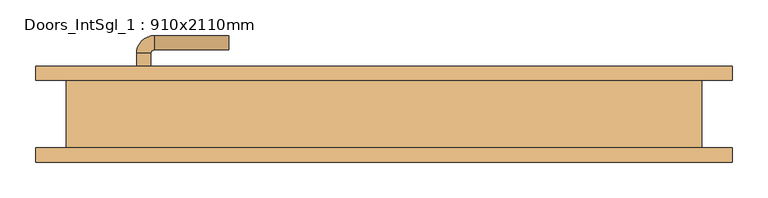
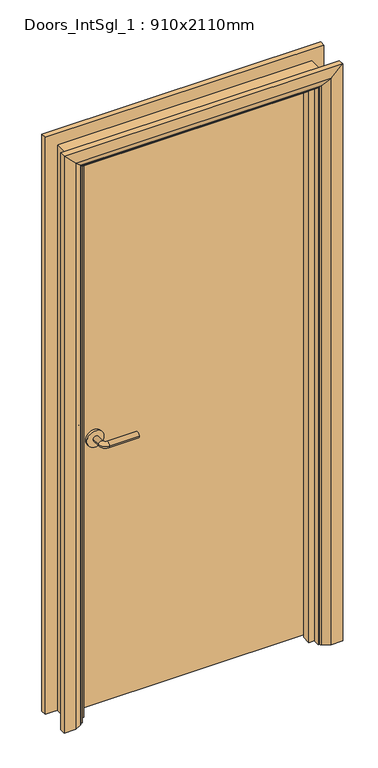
"""IFC4 building model written with IfcOpenShell, lengths in millimetres: door geometry, Doors_IntSgl_1 : 910x2110mm."""

from ifc_helpers import new_model, si_unit, point, frame, frame_2d, origin, place, context, project, spatial, polyline, circle_curve, ellipse_curve, trimmed, segment, composite_curve, outline, extrude, faceted_brep, source, transform, mapped, element, save
from ifc_brep_helpers import plane_surface, cylinder_surface, revolved_surface, advanced_brep


def doors_intsgl_1_910x2110mm_004a08d5(model_context):
    return source(origin(), model_context, "Body", "SolidModel", [
        advanced_brep(
        [(-348.0, 1.5, 1000.0), (-328.0, 1.5, 1000.0), (-328.0, -28.5, 1000.0), (-348.0, -28.5, 1000.0), (-323.0, -33.5, 1000.0), (-323.0, -53.5, 1000.0), (-218.0, -53.5, 1000.0), (-218.0, -33.5, 1000.0)],
        [
            (0, 1, circle_curve(frame((-338.0, 1.5, 1000.0), z_axis=(0.0, 1.0, 0.0), x_axis=(1.0, 0.0, 0.0)), 10.0)),
            (1, 0, circle_curve(frame((-338.0, 1.5, 1000.0), z_axis=(0.0, 1.0, 0.0), x_axis=(1.0, 0.0, 0.0)), 10.0)),
            (1, 2),
            (2, 3, circle_curve(frame((-338.0, -28.5, 1000.0), z_axis=(0.0, 1.0, 0.0), x_axis=(1.0, 0.0, 0.0)), 10.0)),
            (3, 0),
            (3, 2, circle_curve(frame((-338.0, -28.5, 1000.0), z_axis=(0.0, 1.0, 0.0), x_axis=(1.0, 0.0, 0.0)), 10.0)),
            (4, 5, circle_curve(frame((-323.0, -43.5, 1000.0), z_axis=(-1.0, 0.0, 0.0), x_axis=(0.0, 1.0, 0.0)), 10.0)),
            (5, 3, circle_curve(frame((-323.0, -28.5, 1000.0), z_axis=(0.0, 0.0, -1.0), x_axis=(-1.0, 0.0, 0.0)), 25.0)),
            (2, 4, circle_curve(frame((-323.0, -28.5, 1000.0), z_axis=(0.0, 0.0, 1.0), x_axis=(-1.0, 0.0, 0.0)), 5.0)),
            (5, 4, circle_curve(frame((-323.0, -43.5, 1000.0), z_axis=(-1.0, 0.0, 0.0), x_axis=(0.0, 1.0, 0.0)), 10.0)),
            (6, 7, circle_curve(frame((-218.0, -43.5, 1000.0), z_axis=(1.0, 0.0, 0.0), x_axis=(0.0, 1.0, 0.0)), 10.0)),
            (7, 6, circle_curve(frame((-218.0, -43.5, 1000.0), z_axis=(1.0, 0.0, 0.0), x_axis=(0.0, 1.0, 0.0)), 10.0)),
            (4, 7),
            (6, 5),
        ],
        [
            plane_surface(frame((-338.0, 1.5, 1000.0), z_axis=(0.0, 1.0, 0.0), x_axis=(0.0, 0.0, 1.0))),
            cylinder_surface(frame((-338.0, 1.5, 1000.0), z_axis=(0.0, 1.0, 0.0), x_axis=(1.0, 0.0, 0.0)), 10.0),
            revolved_surface(trimmed(ellipse_curve(frame((-338.0, -28.5, 1000.0), z_axis=(0.0, -1.0, 0.0), x_axis=(1.0, 0.0, 0.0)), 10.0, 10.0), [point((-348.0, -28.5, 1000.0))], [point((-328.0, -28.5, 1000.0))], True, "CARTESIAN"), (-323.0, -28.5, 1000.0), (0.0, 0.0, -1.0)),
            revolved_surface(trimmed(ellipse_curve(frame((-338.0, -28.5, 1000.0), z_axis=(0.0, -1.0, 0.0), x_axis=(1.0, 0.0, 0.0)), 10.0, 10.0), [point((-328.0, -28.5, 1000.0))], [point((-348.0, -28.5, 1000.0))], True, "CARTESIAN"), (-323.0, -28.5, 1000.0), (0.0, 0.0, -1.0)),
            plane_surface(frame((-218.0, -43.5, 1000.0), z_axis=(1.0, 0.0, 0.0), x_axis=(0.0, 0.0, 1.0))),
            cylinder_surface(frame((-323.0, -43.5, 1000.0), z_axis=(-1.0, 0.0, 0.0), x_axis=(0.0, 1.0, 0.0)), 10.0),
        ],
        [
            (0, [[1, 2]]),
            (1, [[3, 4, 5, -2]]),
            (1, [[-5, 6, -3, -1]]),
            (2, [[7, 8, -4, 9]]),
            (3, [[10, -9, -6, -8]]),
            (4, [[11, 12]]),
            (5, [[13, -11, 14, -7]]),
            (5, [[-14, -12, -13, -10]]),
        ],
    ),
        extrude(outline(composite_curve([segment(trimmed(circle_curve(frame_2d((1000.0, -340.5)), 30.0), [point((1000.0, -370.5))], [point((1000.0, -310.5))], False, "CARTESIAN"), True, "CONTINUOUS"), segment(trimmed(circle_curve(frame_2d((1000.0, -340.5)), 30.0), [point((1000.0, -310.5))], [point((1000.0, -370.5))], False, "CARTESIAN"), True, "CONTINUOUS")], self_intersect=False)), frame((0.0, 1.5, 0.0), z_axis=(0.0, 1.0, 0.0), x_axis=(0.0, 0.0, 1.0)), (0.0, 0.0, 1.0), 8.0),
        advanced_brep(
        [(-348.0, 55.5, 1000.0), (-328.0, 55.5, 1000.0), (-348.0, 85.5, 1000.0), (-328.0, 85.5, 1000.0), (-323.0, 90.5, 1000.0), (-323.0, 110.5, 1000.0), (-218.0, 110.5, 1000.0), (-218.0, 90.5, 1000.0)],
        [
            (0, 1, circle_curve(frame((-338.0, 55.5, 1000.0), z_axis=(0.0, -1.0, 0.0), x_axis=(1.0, 0.0, 0.0)), 10.0)),
            (1, 0, circle_curve(frame((-338.0, 55.5, 1000.0), z_axis=(0.0, -1.0, 0.0), x_axis=(1.0, 0.0, 0.0)), 10.0)),
            (0, 2),
            (2, 3, circle_curve(frame((-338.0, 85.5, 1000.0), z_axis=(0.0, -1.0, 0.0), x_axis=(1.0, 0.0, 0.0)), 10.0)),
            (3, 1),
            (3, 2, circle_curve(frame((-338.0, 85.5, 1000.0), z_axis=(0.0, -1.0, 0.0), x_axis=(1.0, 0.0, 0.0)), 10.0)),
            (4, 3, circle_curve(frame((-323.0, 85.5, 1000.0), z_axis=(0.0, 0.0, 1.0), x_axis=(-1.0, 0.0, 0.0)), 5.0)),
            (2, 5, circle_curve(frame((-323.0, 85.5, 1000.0), z_axis=(0.0, 0.0, -1.0), x_axis=(-1.0, 0.0, 0.0)), 25.0)),
            (5, 4, circle_curve(frame((-323.0, 100.5, 1000.0), z_axis=(-1.0, 0.0, 0.0), x_axis=(0.0, -1.0, 0.0)), 10.0)),
            (4, 5, circle_curve(frame((-323.0, 100.5, 1000.0), z_axis=(-1.0, 0.0, 0.0), x_axis=(0.0, -1.0, 0.0)), 10.0)),
            (6, 7, circle_curve(frame((-218.0, 100.5, 1000.0), z_axis=(1.0, 0.0, 0.0), x_axis=(0.0, -1.0, 0.0)), 10.0)),
            (7, 6, circle_curve(frame((-218.0, 100.5, 1000.0), z_axis=(1.0, 0.0, 0.0), x_axis=(0.0, -1.0, 0.0)), 10.0)),
            (5, 6),
            (7, 4),
        ],
        [
            plane_surface(frame((-338.0, 55.5, 1000.0), z_axis=(0.0, -1.0, 0.0), x_axis=(0.0, 0.0, 1.0))),
            cylinder_surface(frame((-338.0, 55.5, 1000.0), z_axis=(0.0, -1.0, 0.0), x_axis=(1.0, 0.0, 0.0)), 10.0),
            revolved_surface(trimmed(ellipse_curve(frame((-338.0, 85.5, 1000.0), z_axis=(0.0, -1.0, 0.0), x_axis=(1.0, 0.0, 0.0)), 10.0, 10.0), [point((-348.0, 85.5, 1000.0))], [point((-328.0, 85.5, 1000.0))], True, "CARTESIAN"), (-323.0, 85.5, 1000.0), (0.0, 0.0, -1.0)),
            revolved_surface(trimmed(ellipse_curve(frame((-338.0, 85.5, 1000.0), z_axis=(0.0, -1.0, 0.0), x_axis=(1.0, 0.0, 0.0)), 10.0, 10.0), [point((-328.0, 85.5, 1000.0))], [point((-348.0, 85.5, 1000.0))], True, "CARTESIAN"), (-323.0, 85.5, 1000.0), (0.0, 0.0, -1.0)),
            plane_surface(frame((-218.0, 100.5, 1000.0), z_axis=(1.0, 0.0, 0.0), x_axis=(0.0, 0.0, 1.0))),
            cylinder_surface(frame((-323.0, 100.5, 1000.0), z_axis=(-1.0, 0.0, 0.0), x_axis=(0.0, -1.0, 0.0)), 10.0),
        ],
        [
            (0, [[1, 2]]),
            (1, [[-1, 3, 4, 5]]),
            (1, [[-2, -5, 6, -3]]),
            (2, [[7, -4, 8, 9]]),
            (3, [[-8, -6, -7, 10]]),
            (4, [[11, 12]]),
            (5, [[-9, 13, -12, 14]]),
            (5, [[-10, -14, -11, -13]]),
        ],
    ),
        extrude(outline(composite_curve([segment(trimmed(circle_curve(frame_2d((1000.0, -340.5)), 30.0), [point((1000.0, -370.5))], [point((1000.0, -310.5))], False, "CARTESIAN"), True, "CONTINUOUS"), segment(trimmed(circle_curve(frame_2d((1000.0, -340.5)), 30.0), [point((1000.0, -310.5))], [point((1000.0, -370.5))], False, "CARTESIAN"), True, "CONTINUOUS")], self_intersect=False)), frame((0.0, 47.5, 0.0), z_axis=(0.0, 1.0, 0.0), x_axis=(0.0, 0.0, 1.0)), (0.0, 0.0, 1.0), 8.0),
        extrude(outline(polyline([(413.0, 9.5), (-413.0, 9.5), (-413.0, 47.5), (413.0, 47.5), (413.0, 9.5)])), frame((0.0, 0.0, 8.0), z_axis=(0.0, 0.0, 1.0), x_axis=(1.0, 0.0, 0.0)), (0.0, 0.0, 1.0), 2060.0),
        faceted_brep([(-415.0, 47.5, 0.0), (-415.0, -47.5, 0.0), (-447.0, -47.5, 0.0), (-447.0, 47.5, 0.0), (-415.0, 47.5, 2070.0), (-415.0, -47.5, 2070.0), (-447.0, -47.5, 2102.0), (-447.0, 47.5, 2102.0), (415.0, 47.5, 0.0), (447.0, 47.5, 0.0), (447.0, -47.5, 0.0), (415.0, -47.5, 0.0), (415.0, 47.5, 2070.0), (447.0, 47.5, 2102.0), (447.0, -47.5, 2102.0), (415.0, -47.5, 2070.0)], [[[0, 1, 2, 3]], [[1, 0, 4, 5]], [[2, 1, 5, 6]], [[3, 2, 6, 7]], [[0, 3, 7, 4]], [[8, 9, 10, 11]], [[12, 13, 9, 8]], [[13, 14, 10, 9]], [[14, 15, 11, 10]], [[15, 12, 8, 11]], [[5, 4, 12, 15]], [[6, 5, 15, 14]], [[7, 6, 14, 13]], [[4, 7, 13, 12]]]),
        advanced_brep(
        [(-490.0, -67.5, 0.0), (-490.0, -47.5, 0.0), (-420.0, -47.5, 0.0), (-424.0, -53.5, 0.0), (-450.0, -67.5, 0.0), (-490.0, -67.5, 2145.0), (-490.0, -47.5, 2145.0), (-420.0, -47.5, 2075.0), (-424.0, -53.5, 2079.0), (-450.0, -67.5, 2105.0), (490.0, -67.5, 0.0), (450.0, -67.5, 0.0), (424.0, -53.5, 0.0), (420.0, -47.5, 0.0), (490.0, -47.5, 0.0), (490.0, -67.5, 2145.0), (450.0, -67.5, 2105.0), (424.0, -53.5, 2079.0), (420.0, -47.5, 2075.0), (490.0, -47.5, 2145.0)],
        [
            (0, 1),
            (1, 2),
            (2, 3, circle_curve(frame((-428.0, -46.5, 0.0), z_axis=(0.0, 0.0, -1.0), x_axis=(-1.0, 0.0, 0.0)), 8.0622577)),
            (3, 4),
            (4, 0),
            (0, 5),
            (5, 6),
            (6, 1),
            (6, 7),
            (7, 2),
            (7, 8, ellipse_curve(frame((-428.0, -46.5, 2083.0), z_axis=(-0.7071067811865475, 0.0, -0.7071067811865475), x_axis=(0.7071067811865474, 0.0, -0.7071067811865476)), 11.4017543, 8.0622577)),
            (8, 3),
            (8, 9),
            (9, 4),
            (9, 5),
            (10, 11),
            (11, 12),
            (12, 13, circle_curve(frame((428.0, -46.5, 0.0), z_axis=(0.0, 0.0, -1.0), x_axis=(1.0, 0.0, 0.0)), 8.0622577)),
            (13, 14),
            (14, 10),
            (15, 16),
            (16, 11),
            (10, 15),
            (16, 17),
            (17, 12),
            (17, 18, ellipse_curve(frame((428.0, -46.5, 2083.0), z_axis=(0.7071067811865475, 0.0, -0.7071067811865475), x_axis=(0.7071067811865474, 0.0, 0.7071067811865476)), 11.4017543, 8.0622577)),
            (18, 13),
            (18, 19),
            (19, 14),
            (19, 15),
            (5, 15),
            (19, 6),
            (18, 7),
            (17, 8),
            (16, 9),
        ],
        [
            plane_surface(frame((-420.0, -120.3010989, 0.0), z_axis=(0.0, 0.0, -1.0), x_axis=(1.0, 0.0, 0.0))),
            plane_surface(frame((-490.0, -67.5, 0.0), z_axis=(-1.0, 0.0, 0.0), x_axis=(0.0, 0.0, 1.0))),
            plane_surface(frame((-490.0, -47.5, 0.0), z_axis=(0.0, 1.0, 0.0), x_axis=(0.0, 0.0, 1.0))),
            cylinder_surface(frame((-428.0, -46.5, 0.0), z_axis=(0.0, 0.0, -1.0), x_axis=(-1.0, 0.0, 0.0)), 8.0622577),
            plane_surface(frame((-424.0, -53.5, 0.0), z_axis=(0.4740998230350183, -0.8804710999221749, 0.0), x_axis=(0.0, 0.0, 1.0))),
            plane_surface(frame((-450.0, -67.5, 0.0), z_axis=(0.0, -1.0, 0.0), x_axis=(0.0, 0.0, 1.0))),
            plane_surface(frame((420.0, -120.3010989, 0.0), z_axis=(0.0, 0.0, -1.0), x_axis=(-1.0, 0.0, 0.0))),
            plane_surface(frame((450.0, -67.5, 2105.0), z_axis=(0.0, -1.0, 0.0), x_axis=(0.0, 0.0, -1.0))),
            plane_surface(frame((424.0, -53.5, 2079.0), z_axis=(-0.4740998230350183, -0.8804710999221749, 0.0), x_axis=(0.0, 0.0, -1.0))),
            cylinder_surface(frame((428.0, -46.5, 2075.0), z_axis=(0.0, 0.0, 1.0), x_axis=(1.0, 0.0, 0.0)), 8.0622577),
            plane_surface(frame((490.0, -47.5, 2145.0), z_axis=(0.0, 1.0, 0.0), x_axis=(0.0, 0.0, -1.0))),
            plane_surface(frame((490.0, -67.5, 2145.0), z_axis=(1.0, 0.0, 0.0), x_axis=(0.0, 0.0, -1.0))),
            plane_surface(frame((-490.0, -67.5, 2145.0), z_axis=(0.0, 0.0, 1.0), x_axis=(1.0, 0.0, 0.0))),
            plane_surface(frame((-490.0, -47.5, 2145.0), z_axis=(0.0, 1.0, 0.0), x_axis=(1.0, 0.0, 0.0))),
            cylinder_surface(frame((-420.0, -46.5, 2083.0), z_axis=(-1.0, 0.0, 0.0), x_axis=(0.0, 0.0, 1.0)), 8.0622577),
            plane_surface(frame((-424.0, -53.5, 2079.0), z_axis=(0.0, -0.8804710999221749, -0.4740998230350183), x_axis=(1.0, 0.0, 0.0))),
            plane_surface(frame((-450.0, -67.5, 2105.0), z_axis=(0.0, -1.0, 0.0), x_axis=(1.0, 0.0, 0.0))),
        ],
        [
            (0, [[1, 2, 3, 4, 5]]),
            (1, [[-1, 6, 7, 8]]),
            (2, [[-2, -8, 9, 10]]),
            (3, [[-3, -10, 11, 12]]),
            (4, [[-4, -12, 13, 14]]),
            (5, [[-5, -14, 15, -6]]),
            (6, [[16, 17, 18, 19, 20]]),
            (7, [[21, 22, -16, 23]]),
            (8, [[24, 25, -17, -22]]),
            (9, [[26, 27, -18, -25]]),
            (10, [[28, 29, -19, -27]]),
            (11, [[30, -23, -20, -29]]),
            (12, [[-7, 31, -30, 32]]),
            (13, [[-9, -32, -28, 33]]),
            (14, [[-11, -33, -26, 34]]),
            (15, [[-13, -34, -24, 35]]),
            (16, [[-15, -35, -21, -31]]),
        ],
    ),
        extrude(outline(polyline([(0.0, -415.0), (0.0, -396.0), (2051.0, -396.0), (2051.0, 396.0), (0.0, 396.0), (0.0, 415.0), (2070.0, 415.0), (2070.0, -415.0), (0.0, -415.0)])), frame((0.0, -24.5, 0.0), z_axis=(0.0, 1.0, 0.0), x_axis=(0.0, 0.0, 1.0)), (0.0, 0.0, 1.0), 32.0),
        advanced_brep(
        [(490.0, 67.5, 0.0), (490.0, 47.5, 0.0), (420.0, 47.5, 0.0), (424.0, 53.5, 0.0), (450.0, 67.5, 0.0), (490.0, 67.5, 2145.0), (490.0, 47.5, 2145.0), (-490.0, 47.5, 2145.0), (-490.0, 47.5, 0.0), (-420.0, 47.5, 0.0), (-420.0, 47.5, 2075.0), (420.0, 47.5, 2075.0), (424.0, 53.5, 2079.0), (450.0, 67.5, 2105.0), (-450.0, 67.5, 2105.0), (-450.0, 67.5, 0.0), (-490.0, 67.5, 0.0), (-490.0, 67.5, 2145.0), (-424.0, 53.5, 0.0), (-424.0, 53.5, 2079.0)],
        [
            (0, 1),
            (1, 2),
            (2, 3, circle_curve(frame((428.0, 46.5, 0.0), z_axis=(0.0, 0.0, -1.0), x_axis=(1.0, 0.0, 0.0)), 8.0622577)),
            (3, 4),
            (4, 0),
            (0, 5),
            (5, 6),
            (6, 1),
            (6, 7),
            (7, 8),
            (8, 9),
            (9, 10),
            (10, 11),
            (11, 2),
            (11, 12, ellipse_curve(frame((428.0, 46.5, 2083.0), z_axis=(0.7071067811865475, 0.0, -0.7071067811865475), x_axis=(-0.7071067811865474, 0.0, -0.7071067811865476)), 11.4017543, 8.0622577)),
            (12, 3),
            (12, 13),
            (13, 4),
            (13, 14),
            (14, 15),
            (15, 16),
            (16, 17),
            (17, 5),
            (7, 17),
            (16, 8),
            (15, 18),
            (18, 9, circle_curve(frame((-428.0, 46.5, 0.0), z_axis=(0.0, 0.0, -1.0), x_axis=(-1.0, 0.0, 0.0)), 8.0622577)),
            (19, 10, ellipse_curve(frame((-428.0, 46.5, 2083.0), z_axis=(-0.7071067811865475, 0.0, -0.7071067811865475), x_axis=(-0.7071067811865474, 0.0, 0.7071067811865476)), 11.4017543, 8.0622577)),
            (18, 19),
            (14, 19),
            (19, 12),
        ],
        [
            plane_surface(frame((420.0, 47.5, 0.0), z_axis=(0.0, 0.0, -1.0), x_axis=(0.0, -1.0, 0.0))),
            plane_surface(frame((490.0, 67.5, 0.0), z_axis=(1.0, 0.0, 0.0), x_axis=(0.0, 0.0, 1.0))),
            plane_surface(frame((490.0, 47.5, 0.0), z_axis=(0.0, -1.0, 0.0), x_axis=(0.0, 0.0, 1.0))),
            cylinder_surface(frame((428.0, 46.5, 0.0), z_axis=(0.0, 0.0, -1.0), x_axis=(1.0, 0.0, 0.0)), 8.0622577),
            plane_surface(frame((424.0, 53.5, 0.0), z_axis=(-0.4740998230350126, 0.880471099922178, 0.0), x_axis=(0.0, 0.0, 1.0))),
            plane_surface(frame((450.0, 67.5, 0.0), z_axis=(0.0, 1.0, 0.0), x_axis=(0.0, 0.0, 1.0))),
            plane_surface(frame((-490.0, 67.5, 2145.0), z_axis=(-1.0, 0.0, 0.0), x_axis=(0.0, 0.0, -1.0))),
            plane_surface(frame((-420.0, 47.5, 0.0), z_axis=(0.0, 0.0, -1.0), x_axis=(0.0, -1.0, 0.0))),
            cylinder_surface(frame((-428.0, 46.5, 2075.0), z_axis=(0.0, 0.0, 1.0), x_axis=(-1.0, 0.0, 0.0)), 8.0622577),
            plane_surface(frame((-424.0, 53.5, 2079.0), z_axis=(0.47409982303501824, 0.8804710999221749, 0.0), x_axis=(0.0, 0.0, -1.0))),
            plane_surface(frame((490.0, 67.5, 2145.0), z_axis=(0.0, 0.0, 1.0), x_axis=(-1.0, 0.0, 0.0))),
            cylinder_surface(frame((420.0, 46.5, 2083.0), z_axis=(1.0, 0.0, 0.0), x_axis=(0.0, 0.0, 1.0)), 8.0622577),
            plane_surface(frame((424.0, 53.5, 2079.0), z_axis=(0.0, 0.8804710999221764, -0.4740998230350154), x_axis=(-1.0, 0.0, 0.0))),
        ],
        [
            (0, [[1, 2, 3, 4, 5]]),
            (1, [[-1, 6, 7, 8]]),
            (2, [[-2, -8, 9, 10, 11, 12, 13, 14]]),
            (3, [[-3, -14, 15, 16]]),
            (4, [[-4, -16, 17, 18]]),
            (5, [[-5, -18, 19, 20, 21, 22, 23, -6]]),
            (6, [[24, -22, 25, -10]]),
            (7, [[-21, 26, 27, -11, -25]]),
            (8, [[28, -12, -27, 29]]),
            (9, [[30, -29, -26, -20]]),
            (10, [[-7, -23, -24, -9]]),
            (11, [[-15, -13, -28, 31]]),
            (12, [[-17, -31, -30, -19]]),
        ],
    ),
    ])


if __name__ == "__main__":
    model = new_model("IFC4")
    model_context = context("Model", 3, world=origin())
    ifc_project = project(units=[si_unit("LENGTHUNIT", "METRE", prefix="MILLI")], contexts=[model_context])
    site = spatial("IfcSite", under=ifc_project)
    building = spatial("IfcBuilding", under=site)
    placement = place(None, origin())
    doors_intsgl_1_910x2110mm_shape = doors_intsgl_1_910x2110mm_004a08d5(model_context)
    element("IfcDoor", 1, ObjectType="Doors_IntSgl_1 : 910x2110mm", at=placement, inside=building, context=model_context, shape_type="MappedRepresentation", body=[
        mapped(doors_intsgl_1_910x2110mm_shape, transform((0.0, 0.0, 0.0), x_axis=(1.0, 0.0, 0.0), y_axis=(0.0, 1.0, 0.0), z_axis=(0.0, 0.0, 1.0))),
    ])
    save(model, "model.ifc")
